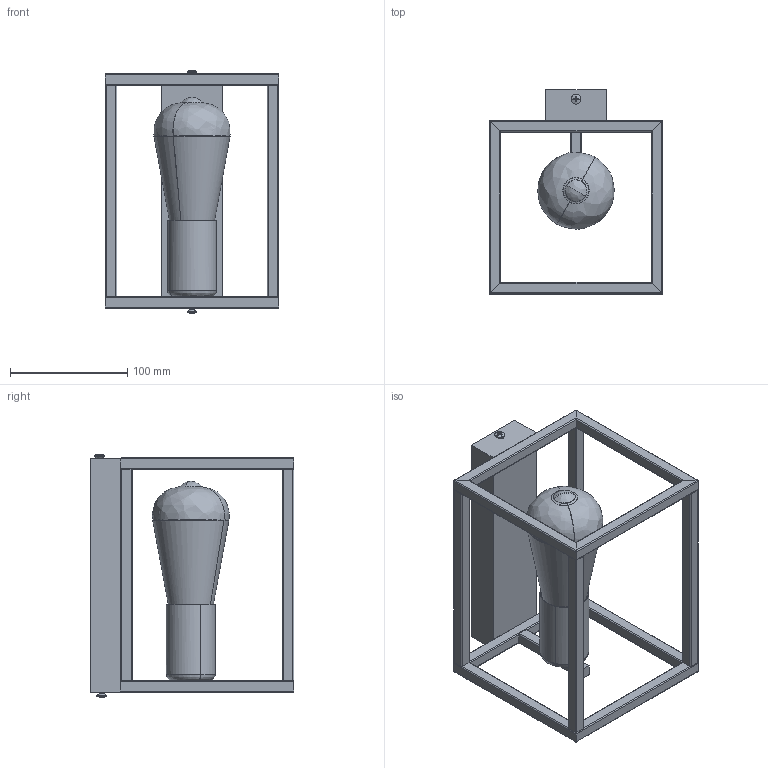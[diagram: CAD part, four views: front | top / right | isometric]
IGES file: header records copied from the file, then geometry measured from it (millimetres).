
Start section: SolidWorks IGES file using NURBS representation for surfaces
Global section: file name: Z:\Modele 3D_WWW\_KOLEKCJE_WWW\CRATE\9046\CRATE-9046.IGS; native system: SolidWorks 2021; preprocessor: SolidWorks 2021; author: gabriela.tworek; date: 210913.074353; units: millimetre
Bounding box: 148 x 174 x 207.45 mm (x, y, z)
Surface area: 205425.2 mm2 (no closed solid volume)
Topology: 0 solids, 0 shells, 538 faces, 5947 edges, 5934 vertices
Faces by surface type: bspline 538
